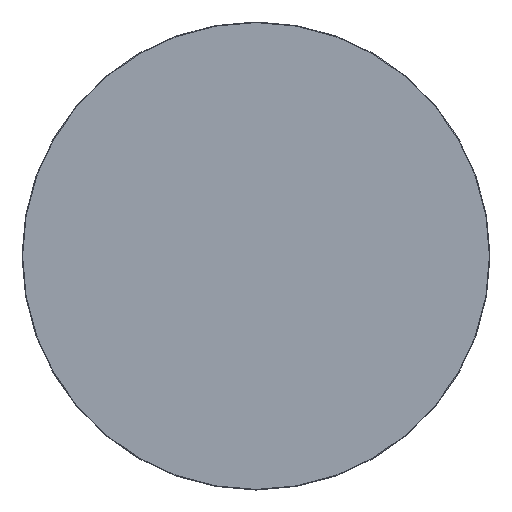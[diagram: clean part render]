
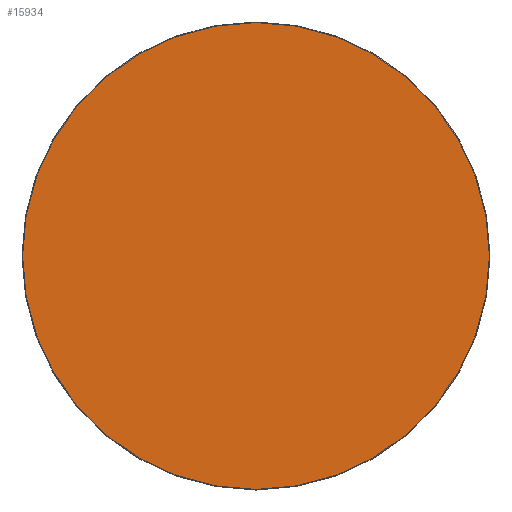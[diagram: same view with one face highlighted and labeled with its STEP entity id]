
A CAD part, top view. The second image highlights one B-rep face of the part: STEP entity #15934.
In plain terms, the highlighted planar face has unit normal (0, 0, 1).
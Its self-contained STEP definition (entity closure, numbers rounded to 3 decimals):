
#15859=CARTESIAN_POINT('',(0.,0.,20.));
#15860=DIRECTION('',(1.,0.,0.));
#15861=DIRECTION('',(0.,0.,1.));
#15862=AXIS2_PLACEMENT_3D('',#15859,#15861,#15860);
#15863=PLANE('',#15862);
#15864=CARTESIAN_POINT('',(-0.5,-598.5,20.));
#15865=VERTEX_POINT('',#15864);
#15866=CARTESIAN_POINT('',(0.5,-598.5,20.));
#15867=VERTEX_POINT('',#15866);
#15868=CARTESIAN_POINT('',(-0.5,-598.5,20.));
#15869=DIRECTION('',(1.,0.,0.));
#15870=VECTOR('',#15869,1.);
#15871=LINE('',#15868,#15870);
#15872=EDGE_CURVE('',#15865,#15867,#15871,.T.);
#15873=ORIENTED_EDGE('E105',*,*,#15872,.T.);
#15874=CARTESIAN_POINT('',(598.5,-0.5,20.));
#15875=VERTEX_POINT('',#15874);
#15876=CARTESIAN_POINT('',(0.5,-0.5,20.));
#15877=DIRECTION('',(0.,-1.,0.));
#15878=DIRECTION('',(0.,-0.,1.));
#15879=AXIS2_PLACEMENT_3D('',#15876,#15878,#15877);
#15880=CIRCLE('',#15879,598.);
#15881=EDGE_CURVE('',#15867,#15875,#15880,.T.);
#15882=ORIENTED_EDGE('E107',*,*,#15881,.T.);
#15883=CARTESIAN_POINT('',(598.5,0.5,20.));
#15884=VERTEX_POINT('',#15883);
#15885=CARTESIAN_POINT('',(598.5,-0.5,20.));
#15886=DIRECTION('',(0.,1.,0.));
#15887=VECTOR('',#15886,1.);
#15888=LINE('',#15885,#15887);
#15889=EDGE_CURVE('',#15875,#15884,#15888,.T.);
#15890=ORIENTED_EDGE('E109',*,*,#15889,.T.);
#15891=CARTESIAN_POINT('',(0.5,598.5,20.));
#15892=VERTEX_POINT('',#15891);
#15893=CARTESIAN_POINT('',(0.5,0.5,20.));
#15894=DIRECTION('',(1.,0.,0.));
#15895=DIRECTION('',(0.,0.,1.));
#15896=AXIS2_PLACEMENT_3D('',#15893,#15895,#15894);
#15897=CIRCLE('',#15896,598.);
#15898=EDGE_CURVE('',#15884,#15892,#15897,.T.);
#15899=ORIENTED_EDGE('E111',*,*,#15898,.T.);
#15900=CARTESIAN_POINT('',(-0.5,598.5,20.));
#15901=VERTEX_POINT('',#15900);
#15902=CARTESIAN_POINT('',(0.5,598.5,20.));
#15903=DIRECTION('',(-1.,0.,0.));
#15904=VECTOR('',#15903,1.);
#15905=LINE('',#15902,#15904);
#15906=EDGE_CURVE('',#15892,#15901,#15905,.T.);
#15907=ORIENTED_EDGE('E113',*,*,#15906,.T.);
#15908=CARTESIAN_POINT('',(-598.5,0.5,20.));
#15909=VERTEX_POINT('',#15908);
#15910=CARTESIAN_POINT('',(-0.5,0.5,20.));
#15911=DIRECTION('',(0.,1.,0.));
#15912=DIRECTION('',(0.,0.,1.));
#15913=AXIS2_PLACEMENT_3D('',#15910,#15912,#15911);
#15914=CIRCLE('',#15913,598.);
#15915=EDGE_CURVE('',#15901,#15909,#15914,.T.);
#15916=ORIENTED_EDGE('E115',*,*,#15915,.T.);
#15917=CARTESIAN_POINT('',(-598.5,-0.5,20.));
#15918=VERTEX_POINT('',#15917);
#15919=CARTESIAN_POINT('',(-598.5,0.5,20.));
#15920=DIRECTION('',(0.,-1.,0.));
#15921=VECTOR('',#15920,1.);
#15922=LINE('',#15919,#15921);
#15923=EDGE_CURVE('',#15909,#15918,#15922,.T.);
#15924=ORIENTED_EDGE('E117',*,*,#15923,.T.);
#15925=CARTESIAN_POINT('',(-0.5,-0.5,20.));
#15926=DIRECTION('',(-1.,0.,0.));
#15927=DIRECTION('',(0.,0.,1.));
#15928=AXIS2_PLACEMENT_3D('',#15925,#15927,#15926);
#15929=CIRCLE('',#15928,598.);
#15930=EDGE_CURVE('',#15918,#15865,#15929,.T.);
#15931=ORIENTED_EDGE('E119',*,*,#15930,.T.);
#15932=EDGE_LOOP('',(#15873,#15882,#15890,#15899,#15907,#15916,#15924,#15931));
#15933=FACE_OUTER_BOUND('',#15932,.T.);
#15934=ADVANCED_FACE('F2',(#15933),#15863,.T.);
